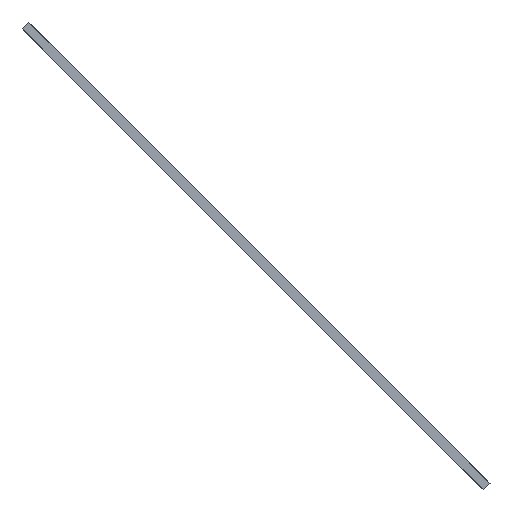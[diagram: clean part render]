
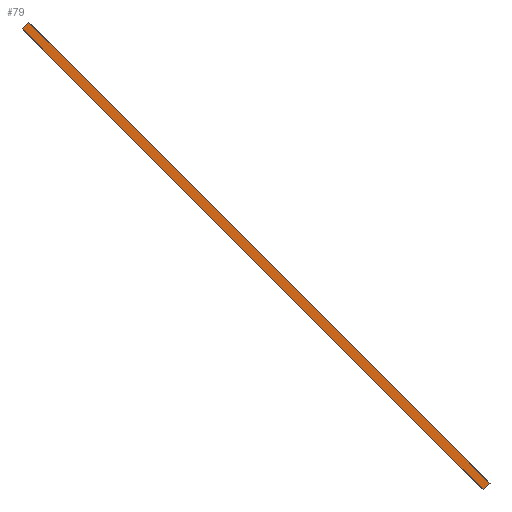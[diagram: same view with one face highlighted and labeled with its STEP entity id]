
A CAD part, front view. The second image highlights one B-rep face of the part: STEP entity #79.
In plain terms, the highlighted planar face has unit normal (0, -1, 0).
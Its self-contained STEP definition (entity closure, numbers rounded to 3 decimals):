
#79=ADVANCED_FACE('',(#7241),#7243,.T.);
#7241=FACE_BOUND('',#7242,.T.);
#7242=EDGE_LOOP('',(#7351,#7352,#7353,#7354));
#7243=PLANE('',#7244);
#7244=AXIS2_PLACEMENT_3D('',#7245,#7246,#7247);
#7245=CARTESIAN_POINT('',(38.838,-45.57,68.908));
#7246=DIRECTION('',(0.,-1.,0.));
#7247=DIRECTION('',(0.707,0.,-0.707));
#7351=ORIENTED_EDGE('',*,*,#7388,.T.);
#7352=ORIENTED_EDGE('',*,*,#7399,.T.);
#7353=ORIENTED_EDGE('',*,*,#7362,.F.);
#7354=ORIENTED_EDGE('',*,*,#7401,.F.);
#7362=EDGE_CURVE('',#7416,#7412,#7418,.T.);
#7388=EDGE_CURVE('',#7468,#7466,#7469,.T.);
#7399=EDGE_CURVE('',#7466,#7412,#7488,.T.);
#7401=EDGE_CURVE('',#7468,#7416,#7491,.T.);
#7412=VERTEX_POINT('',#7504);
#7416=VERTEX_POINT('',#7512);
#7418=LINE('',#7516,#7517);
#7466=VERTEX_POINT('',#9606);
#7468=VERTEX_POINT('',#9610);
#7469=LINE('',#9611,#9612);
#7488=LINE('',#10270,#10271);
#7491=LINE('',#10277,#10278);
#7504=CARTESIAN_POINT('',(186.019,-45.57,-74.031));
#7512=CARTESIAN_POINT('',(40.959,-45.57,71.029));
#7516=CARTESIAN_POINT('',(40.959,-45.57,71.029));
#7517=VECTOR('',#7518,1.);
#7518=DIRECTION('',(0.707,0.,-0.707));
#9606=CARTESIAN_POINT('',(183.898,-45.57,-76.152));
#9610=CARTESIAN_POINT('',(38.838,-45.57,68.908));
#9611=CARTESIAN_POINT('',(38.838,-45.57,68.908));
#9612=VECTOR('',#9613,1.);
#9613=DIRECTION('',(0.707,0.,-0.707));
#10270=CARTESIAN_POINT('',(183.898,-45.57,-76.152));
#10271=VECTOR('',#10272,1.);
#10272=DIRECTION('',(0.707,0.,0.707));
#10277=CARTESIAN_POINT('',(38.838,-45.57,68.908));
#10278=VECTOR('',#10279,1.);
#10279=DIRECTION('',(0.707,0.,0.707));
